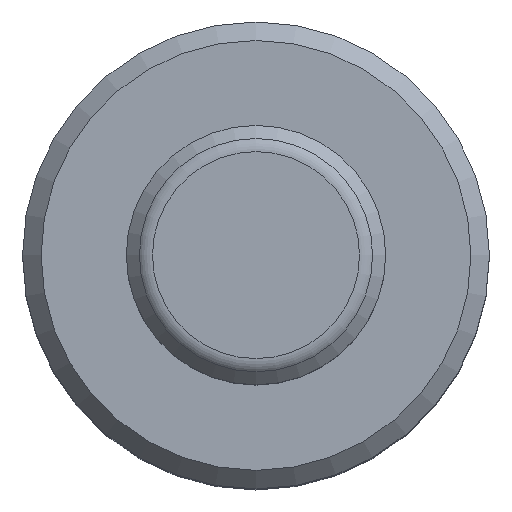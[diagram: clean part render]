
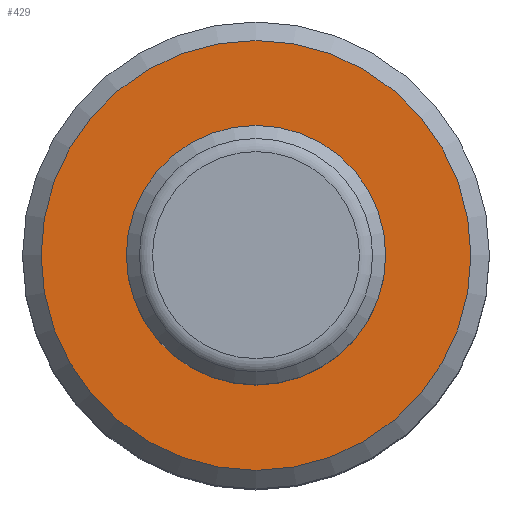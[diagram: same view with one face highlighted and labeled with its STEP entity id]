
A CAD part, top view. The second image highlights one B-rep face of the part: STEP entity #429.
In plain terms, the highlighted planar face has unit normal (0, 0, 1).
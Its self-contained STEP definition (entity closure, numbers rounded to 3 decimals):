
#409 = VERTEX_POINT('',#410);
#410 = CARTESIAN_POINT('',(11.6,0.,34.));
#418 = EDGE_CURVE('',#409,#409,#419,.T.);
#419 = CIRCLE('',#420,11.6);
#420 = AXIS2_PLACEMENT_3D('',#421,#422,#423);
#421 = CARTESIAN_POINT('',(0.,0.,34.));
#422 = DIRECTION('',(0.,0.,1.));
#423 = DIRECTION('',(1.,0.,0.));
#429 = ADVANCED_FACE('',(#430),#433,.T.);
#430 = FACE_BOUND('',#431,.T.);
#431 = EDGE_LOOP('',(#432));
#432 = ORIENTED_EDGE('',*,*,#418,.T.);
#433 = PLANE('',#434);
#434 = AXIS2_PLACEMENT_3D('',#435,#436,#437);
#435 = CARTESIAN_POINT('',(0.,0.,34.));
#436 = DIRECTION('',(0.,0.,1.));
#437 = DIRECTION('',(1.,0.,0.));
